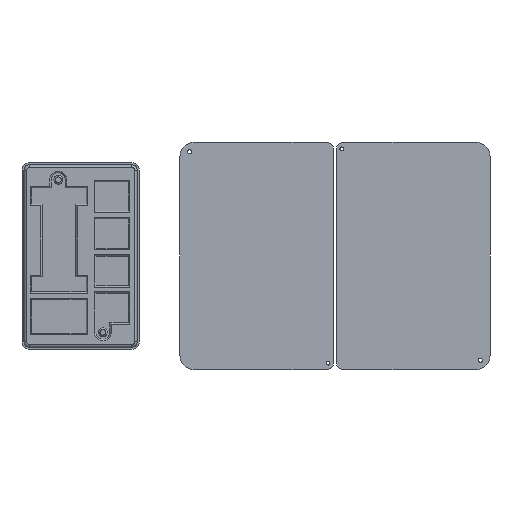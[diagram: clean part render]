
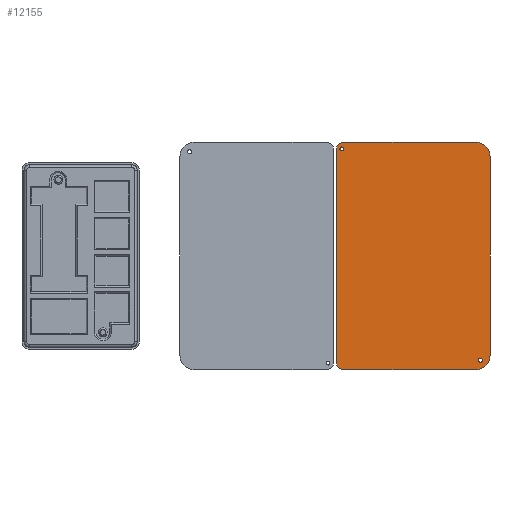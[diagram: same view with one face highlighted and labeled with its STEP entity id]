
A CAD part, front view. The second image highlights one B-rep face of the part: STEP entity #12155.
In plain terms, the highlighted planar face has unit normal (0, -1, 0).
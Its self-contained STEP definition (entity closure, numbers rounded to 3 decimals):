
#399=FACE_BOUND('',#2189,.T.);
#400=FACE_BOUND('',#2190,.T.);
#661=CIRCLE('',#13110,15.);
#663=CIRCLE('',#13114,15.);
#664=CIRCLE('',#13115,30.);
#665=CIRCLE('',#13116,30.);
#666=CIRCLE('',#13117,4.);
#667=CIRCLE('',#13118,4.);
#1371=FACE_OUTER_BOUND('',#2188,.T.);
#2188=EDGE_LOOP('',(#9196,#9197,#9198,#9199,#9200,#9201,#9202,#9203));
#2189=EDGE_LOOP('',(#9204));
#2190=EDGE_LOOP('',(#9205));
#3183=LINE('',#19087,#4328);
#3186=LINE('',#19093,#4331);
#3187=LINE('',#19097,#4332);
#3188=LINE('',#19101,#4333);
#4328=VECTOR('',#15286,10.);
#4331=VECTOR('',#15291,10.);
#4332=VECTOR('',#15294,10.);
#4333=VECTOR('',#15297,10.);
#5453=VERTEX_POINT('',#19077);
#5454=VERTEX_POINT('',#19078);
#5457=VERTEX_POINT('',#19086);
#5459=VERTEX_POINT('',#19092);
#5460=VERTEX_POINT('',#19094);
#5461=VERTEX_POINT('',#19096);
#5462=VERTEX_POINT('',#19098);
#5463=VERTEX_POINT('',#19100);
#5464=VERTEX_POINT('',#19103);
#5465=VERTEX_POINT('',#19105);
#6801=EDGE_CURVE('',#5453,#5454,#661,.T.);
#6805=EDGE_CURVE('',#5457,#5454,#3183,.T.);
#6808=EDGE_CURVE('',#5453,#5459,#3186,.T.);
#6809=EDGE_CURVE('',#5460,#5459,#663,.T.);
#6810=EDGE_CURVE('',#5460,#5461,#3187,.T.);
#6811=EDGE_CURVE('',#5462,#5461,#664,.T.);
#6812=EDGE_CURVE('',#5462,#5463,#3188,.T.);
#6813=EDGE_CURVE('',#5457,#5463,#665,.T.);
#6814=EDGE_CURVE('',#5464,#5464,#666,.T.);
#6815=EDGE_CURVE('',#5465,#5465,#667,.T.);
#9196=ORIENTED_EDGE('',*,*,#6801,.F.);
#9197=ORIENTED_EDGE('',*,*,#6808,.T.);
#9198=ORIENTED_EDGE('',*,*,#6809,.F.);
#9199=ORIENTED_EDGE('',*,*,#6810,.T.);
#9200=ORIENTED_EDGE('',*,*,#6811,.F.);
#9201=ORIENTED_EDGE('',*,*,#6812,.T.);
#9202=ORIENTED_EDGE('',*,*,#6813,.F.);
#9203=ORIENTED_EDGE('',*,*,#6805,.T.);
#9204=ORIENTED_EDGE('',*,*,#6814,.T.);
#9205=ORIENTED_EDGE('',*,*,#6815,.F.);
#11595=PLANE('',#13113);
#12155=ADVANCED_FACE('',(#1371,#399,#400),#11595,.T.);
#13110=AXIS2_PLACEMENT_3D('',#19079,#15278,#15279);
#13113=AXIS2_PLACEMENT_3D('',#19091,#15289,#15290);
#13114=AXIS2_PLACEMENT_3D('',#19095,#15292,#15293);
#13115=AXIS2_PLACEMENT_3D('',#19099,#15295,#15296);
#13116=AXIS2_PLACEMENT_3D('',#19102,#15298,#15299);
#13117=AXIS2_PLACEMENT_3D('',#19104,#15300,#15301);
#13118=AXIS2_PLACEMENT_3D('',#19106,#15302,#15303);
#15278=DIRECTION('center_axis',(0.,1.,0.));
#15279=DIRECTION('ref_axis',(-0.707,0.,0.707));
#15286=DIRECTION('',(-1.,0.,0.));
#15289=DIRECTION('center_axis',(0.,-1.,0.));
#15290=DIRECTION('ref_axis',(1.,0.,0.));
#15291=DIRECTION('',(0.,0.,-1.));
#15292=DIRECTION('center_axis',(0.,1.,0.));
#15293=DIRECTION('ref_axis',(-0.707,0.,-0.707));
#15294=DIRECTION('',(1.,0.,0.));
#15295=DIRECTION('center_axis',(0.,1.,0.));
#15296=DIRECTION('ref_axis',(0.707,0.,-0.707));
#15297=DIRECTION('',(0.,0.,1.));
#15298=DIRECTION('center_axis',(0.,1.,0.));
#15299=DIRECTION('ref_axis',(0.707,0.,0.707));
#15300=DIRECTION('center_axis',(0.,1.,0.));
#15301=DIRECTION('ref_axis',(1.,0.,0.));
#15302=DIRECTION('center_axis',(0.,-1.,0.));
#15303=DIRECTION('ref_axis',(1.,0.,0.));
#19077=CARTESIAN_POINT('',(118.01,-66.,216.551));
#19078=CARTESIAN_POINT('',(133.01,-66.,231.551));
#19079=CARTESIAN_POINT('Origin',(133.01,-66.,216.551));
#19086=CARTESIAN_POINT('',(404.91,-66.,231.551));
#19087=CARTESIAN_POINT('',(434.91,-66.,231.551));
#19091=CARTESIAN_POINT('Origin',(-185.19,-66.,211.651));
#19092=CARTESIAN_POINT('',(118.01,-66.,-223.449));
#19093=CARTESIAN_POINT('',(118.01,-66.,-13.399));
#19094=CARTESIAN_POINT('',(133.01,-66.,-238.449));
#19095=CARTESIAN_POINT('Origin',(133.01,-66.,-223.449));
#19096=CARTESIAN_POINT('',(404.91,-66.,-238.449));
#19097=CARTESIAN_POINT('',(-205.09,-66.,-238.449));
#19098=CARTESIAN_POINT('',(434.91,-66.,-208.449));
#19099=CARTESIAN_POINT('Origin',(404.91,-66.,-208.449));
#19100=CARTESIAN_POINT('',(434.91,-66.,201.551));
#19101=CARTESIAN_POINT('',(434.91,-66.,-238.449));
#19102=CARTESIAN_POINT('Origin',(404.91,-66.,201.551));
#19103=CARTESIAN_POINT('',(411.01,-66.,-218.549));
#19104=CARTESIAN_POINT('Origin',(415.01,-66.,-218.549));
#19105=CARTESIAN_POINT('',(125.179,-66.,217.551));
#19106=CARTESIAN_POINT('Origin',(129.179,-66.,217.551));
